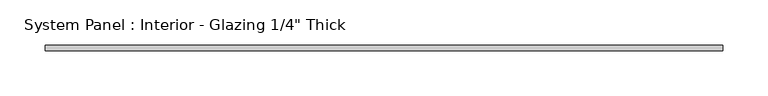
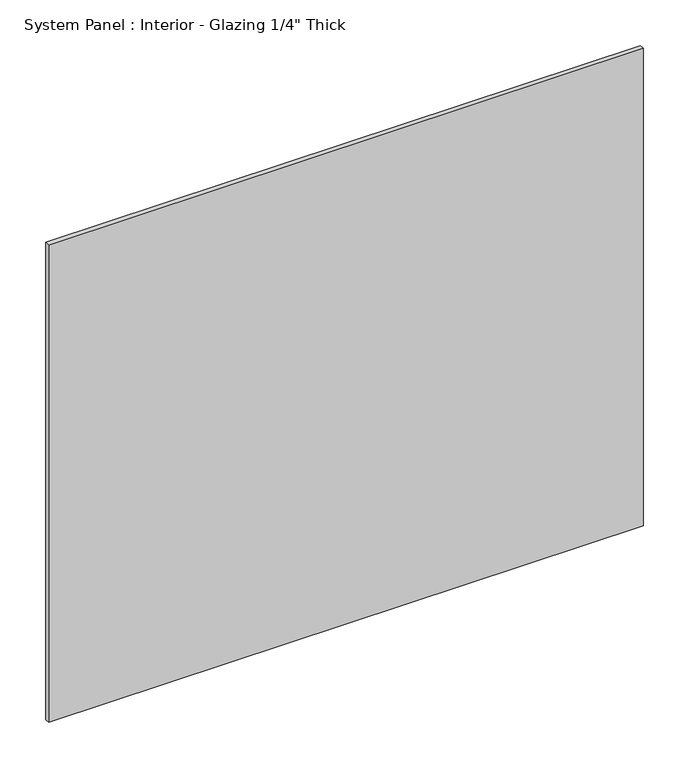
"""IFC4 building model written with IfcOpenShell, lengths in millimetres: plate geometry."""

from ifc_helpers import new_model, si_unit, origin, origin_with_axes, place, context, project, spatial, polyline, outline, extrude, source, transform, mapped, element, save


def plate_832d6fea(model_context):
    return source(origin(), model_context, "Body", "SweptSolid", [
        extrude(outline(polyline([(376.2375, -3.175), (-376.2375, -3.175), (-376.2375, 3.175), (376.2375, 3.175), (376.2375, -3.175)])), origin_with_axes(), (0.0, 0.0, 1.0), 638.3411435),
    ])


if __name__ == "__main__":
    model = new_model("IFC4")
    model_context = context("Model", 3, world=origin())
    ifc_project = project(units=[si_unit("LENGTHUNIT", "METRE", prefix="MILLI")], contexts=[model_context])
    site = spatial("IfcSite", under=ifc_project)
    building = spatial("IfcBuilding", under=site)
    placement = place(None, origin())
    plate_shape = plate_832d6fea(model_context)
    element("IfcPlate", 1, ObjectType="System Panel : Interior - Glazing 1/4\" Thick", at=placement, inside=building, context=model_context, shape_type="MappedRepresentation", body=[
        mapped(plate_shape, transform((0.0, 0.0, 0.0), x_axis=(1.0, 0.0, 0.0), y_axis=(0.0, 1.0, 0.0), z_axis=(0.0, 0.0, 1.0))),
    ])
    save(model, "model.ifc")
